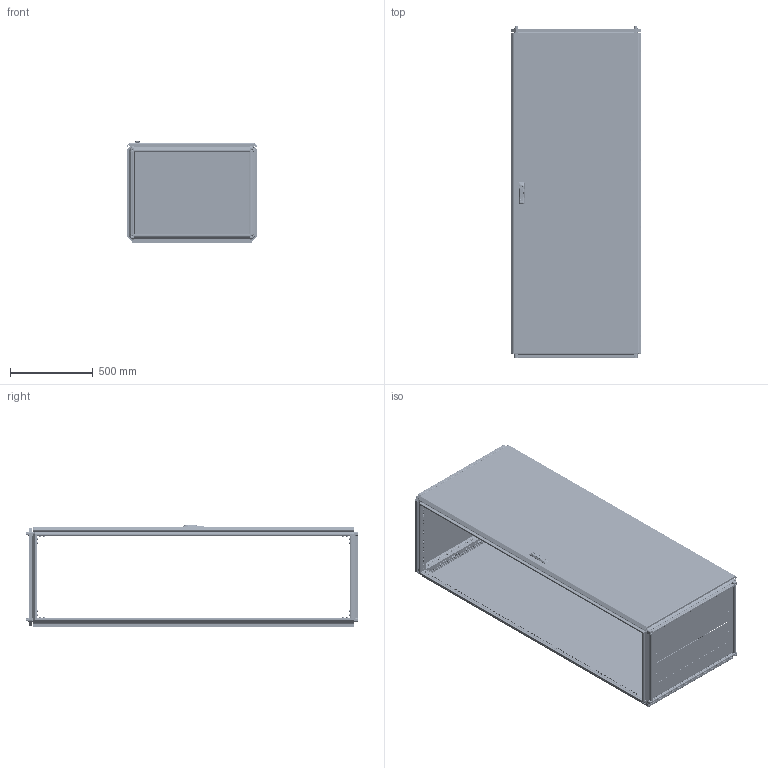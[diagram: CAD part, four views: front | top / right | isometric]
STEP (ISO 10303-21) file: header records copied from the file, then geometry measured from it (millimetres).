
FILE_DESCRIPTION (( 'STEP AP203' ), '1' );
FILE_NAME ('MA1.000.080620.10.00 AleSta2086 Øêàô AleSta 800õ600õ2000.STEP', '2024-08-23T08:28:41', ( '' ), ( '' ), 'SwSTEP 2.0', 'SolidWorks 2021', '' );
FILE_SCHEMA (( 'CONFIG_CONTROL_DESIGN' ));
Length unit declared in the file: millimetre
Products named in the file (50): MA1.101.060620.10.00 Êðûøà 600x600_800å600; MA1.200.060620.11.01 Ïîëîòíî çàäíåé ïàíåëè 2000õ600_2000å800; MA1.200.060620.31.02 Ðåéêà íà äâåðü âåðòèêàëüíàÿ Â = 2000_‚ =2000; Âèíò_ðåçüáîâûäàâëèâàþùèé_Ì5õ12_DIN 7500E_Œ5å12; ﾇﾀﾊﾋﾅﾏﾊﾀ ﾃﾀﾅﾗﾍﾀﾟ ﾘﾅﾑﾒﾈﾃﾐﾀﾍﾍﾀﾟ ﾑ ﾓﾌﾅﾍﾜﾘﾅﾍﾍﾛﾌ ﾁﾎﾐﾒﾎﾌ M4 X 11 (0.5-2.5 ﾌﾌ) HEX U-S ﾖﾈﾍﾊ; 7380-2 ISO Âèíòû ñ ïîëóêðóãëîé ãîëîâêîé ñ ôëàíöåì ñ âíóòðåííèì øåñòèãðàííèêîì Ì4õ10; Ïðîáêà ïëàñòèêîâàÿ óíèâåðñàëüíàÿ ïîä îòâåðñòèå 4,5 ìì, ñåðèÿ ST, öâåò áåñöâåòíûé – ST4,5; 諘蜱齁罻 022 瀁錒瀔隮; Âèíò ñàìîíàðåçàþùèé ñ ïîòàéíîé ãîëîâêîé Ì5x14 DIN 7500 M TORX, êëàññ ïðî÷íîñòè 8.8, îöèíêîâàííàÿ ñòàëü_Œ5å14; MA1.101.060620.00.00 AleSta-RB66 Êîìïëåêò êðûøà è îñíîâàíèå_800å600; Øïèëüêà Ì6õ12_˜¯¨«ìª  Œ6å12; MA1.200.060620.31.01 Ïîëîòíî äâåðè ñïëîøíîé 2000õ600_2000å800; ﾘ琺矜 65ﾃ 019 ﾃﾎﾑﾒ 6402-70_12; MA1.200.060620.10.00 AleSta-PR206  Ïàíåëü çàäíÿÿ, äëÿ øêàôîâ ALESTA, 2000 x 600_2000å800; MA1.101.060620.20.01 Ïîëîòíî íèæíåé ïàíåëè 600õ600_800å600; êðåïëåíèå_êðóãëîé_òÿãè_RG1020-1.stp; MA1.101.060620.00.02 Ïðîôèëü ïîïåðå÷íûé ñâàðíîé_01 L=498 (˜=600); Îñü ïåòëè 4õ52_‚¨­â A.M4x0,5x40 ƒŽ‘’ 11644-75; Âèíò_ðåçüáîâûäàâëèâàþùèé_Ì5õ12_DIN 7500E_00; Ïåòëÿ íà äâåðü ï-îáðàçíàÿ; Âèíò ðåçüáîâûäàâëèâàþùèé Ì6õ12 DIN 7500E_Œ6å10; Âèíò ñ âí. øåñòèãðàííèêîì M12 DIN912_•30; MA1.101.060620.20.02 Çàêðûòèå íèæíåé ïàíåëè 600õ600_800å600; MA1.102.060620.00.00 AleSta-VG2000 Ñòîéêè âåðòèêàëüíûå, Â=2000ìì  (4øò)_800å600; Ãàéêà ñàìîêîíòðÿùàÿñÿ ñ íåéëîíîâîé âñòàâêîé Ì6 DIN 985, êëàññ ïðî÷íîñòè 8, îöèíêîâàííàÿ ñòàëü_Œ5; MA1.102.060620.00.01 Ïðîôèëü âåðòèêàëüíûé ñâàðíîé_04 L=1898 (‚=2000); MS463-2-3(1); MA1.200.060620.31.00 Äâåðü ñïëîøíàÿ äëÿ øêàôîâ ALESTA ÂõØ 2000õ600_2000å800; òÿãà_lg001-2.STEP_‚=2000; Íàâåñêà íà êîðïóñ ïîä êëåïêó; Øïèëüêà Ì6õ12_˜¯¨«ìª  Œ6å16; MA1.200.060620.30.00 AleSta-D20M600 Äâåðü ñïëîøíàÿ äëÿ øêàôîâ ALESTA ÂõØ 2000õ600_2000å800; äåðæàòåëü_êðóãëîé_òÿãèRG002-RG1010-2-i-RG1010-3-.stp; MA1.200.060620.31.04 ðèãåëü çàìêà äâåðè; MA1.101.060620.20.00 Íèæíÿÿ ïàíåëü 600õ600_800å600; Óïëîòíèòåëü ïàíåëè íèæíåé_ ‚=2000; MA1.000.080620.10.00 AleSta2086 Øêàô AleSta 800õ600õ2000; MA1.101.060620.00.02 Ïðîôèëü ïîïåðå÷íûé ñâàðíîé_02 L=698 (˜=800) ; Øàéáà ñòîïîðíàÿ ñ íàðóæíûìè çóáöàìè SCHNORR, òèï VS öèíêîâûå õëîïüÿ Ì6 O6,4 ART 88121_Œ6; Áîëò øåñòèãðàííûé Ì5õ12 DIN 933, êëàññ ïðî÷íîñòè 8.8, îöèíêîâàííàÿ ñòàëü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
Assembly tree (337 placements, depth 4):
  Ïðîáêà ïëàñòèêîâàÿ óíèâåðñàëüíàÿ ïîä îòâåðñòèå 4,5 ìì, ñåðèÿ ST, öâåò áåñöâåòíûé – ST4,5
  MA1.000.080620.10.00 AleSta2086 Øêàô AleSta 800õ600õ2000
    MA1.101.060620.00.00 AleSta-RB66 Êîìïëåêò êðûøà è îñíîâàíèå_800å600
      MA1.101.060620.00.02 Ïðîôèëü ïîïåðå÷íûé ñâàðíîé_01 L=498 (˜=600)  x4
      MA1.101.060620.00.02 Ïðîôèëü ïîïåðå÷íûé ñâàðíîé_02 L=698 (˜=800)   x4
      MA1.101.060620.10.00 Êðûøà 600x600_800å600
        MA1.101.060620.10.01 Ïîëîòíî êðûøè 600õ600_800x600
        Øïèëüêà Ì6õ12_˜¯¨«ìª  Œ6å12  x4
        Óïëîòíèòåëü ïàíåëè íèæíåé_800å600
      MA1.101.060620.20.00 Íèæíÿÿ ïàíåëü 600õ600_800å600
        MA1.101.060620.20.01 Ïîëîòíî íèæíåé ïàíåëè 600õ600_800å600
        ﾇﾀﾊﾋﾅﾏﾊﾀ ﾃﾀﾅﾗﾍﾀﾟ ﾘﾅﾑﾒﾈﾃﾐﾀﾍﾍﾀﾟ ﾑ ﾓﾌﾅﾍﾜﾘﾅﾍﾍﾛﾌ ﾁﾎﾐﾒﾎﾌ M4 X 11 (0.5-2.5 ﾌﾌ) HEX U-S ﾖﾈﾍﾊ  x4
        MA1.101.060620.20.02 Çàêðûòèå íèæíåé ïàíåëè 600õ600_800å600  x2
        7380-2 ISO Âèíòû ñ ïîëóêðóãëîé ãîëîâêîé ñ ôëàíöåì ñ âíóòðåííèì øåñòèãðàííèêîì Ì4õ10  x4
      Âèíò_ðåçüáîâûäàâëèâàþùèé_Ì5õ12_DIN 7500E_Œ5å12  x8
      MA1.100.060620.00.01 Ñîåäèíèòåëü óãëîâîé_00  x8
      Âèíò ñ âí. øåñòèãðàííèêîì M12 DIN912_•30  x4
      Âèíò ðåçüáîâûäàâëèâàþùèé Ì6õ12 DIN 7500E_Œ6å10  x96
      ﾘ琺矜 01.019 ﾃﾎﾑﾒ11371-78_12  x4
      ﾘ琺矜 65ﾃ 019 ﾃﾎﾑﾒ 6402-70_12  x4
      Øàéáà ñòîïîðíàÿ ñ íàðóæíûìè çóáöàìè SCHNORR, òèï VS öèíêîâûå õëîïüÿ Ì6 O6,4 ART 88121_Œ6  x80
    MA1.102.060620.00.00 AleSta-VG2000 Ñòîéêè âåðòèêàëüíûå, Â=2000ìì  (4øò)_800å600
      MA1.102.060620.00.01 Ïðîôèëü âåðòèêàëüíûé ñâàðíîé_04 L=1898 (‚=2000)  x4
    MA1.200.060620.10.00 AleSta-PR206  Ïàíåëü çàäíÿÿ, äëÿ øêàôîâ ALESTA, 2000 x 600_2000å800
      MA1.200.060620.11.00 Ïàíåëü çàäíÿÿ, äëÿ øêàôîâ AleSta, 2000x600_2000å800
        MA1.200.060620.11.01 Ïîëîòíî çàäíåé ïàíåëè 2000õ600_2000å800
        Óïëîòíèòåëü ïàíåëè íèæíåé_ ‚=2000
        Øïèëüêà Ì6õ12_˜¯¨«ìª  Œ6å12  x4
      Âèíò ñàìîíàðåçàþùèé ñ ïîòàéíîé ãîëîâêîé Ì5x14 DIN 7500 M TORX, êëàññ ïðî÷íîñòè 8.8, îöèíêîâàííàÿ ñòàëü_Œ5å14  x8
    MA1.200.060620.30.00 AleSta-D20M600 Äâåðü ñïëîøíàÿ äëÿ øêàôîâ ALESTA ÂõØ 2000õ600_2000å800
      MA1.200.060620.31.00 Äâåðü ñïëîøíàÿ äëÿ øêàôîâ ALESTA ÂõØ 2000õ600_2000å800
        MA1.200.060620.31.01 Ïîëîòíî äâåðè ñïëîøíîé 2000õ600_2000å800
        Óïëîòíèòåëü ïàíåëè íèæíåé_ ‚=2000
        Øïèëüêà Ì6õ12_˜¯¨«ìª  Œ6å20  x16
        Øïèëüêà Ì6õ12_˜¯¨«ìª  Œ6å16  x4
        Ïåòëÿ íà äâåðü ï-îáðàçíàÿ  x4
      MA1.200.060620.31.03 Ðåéêà íà äâåðü ãîðèçîíòàëüíàÿ Ø = 600_˜=800  x2
      諘蜱齁罻 022 瀁錒瀔隮  x4
      MA1.200.060620.31.02 Ðåéêà íà äâåðü âåðòèêàëüíàÿ Â = 2000_‚ =2000  x2
      äåðæàòåëü_êðóãëîé_òÿãèRG002-RG1010-2-i-RG1010-3-.stp  x2
      òÿãà_lg001-2.STEP_‚=2000  x2
      êðåïëåíèå_êðóãëîé_òÿãè_RG1020-1.stp  x2
      MS463-2-3(1)
      Ãàéêà ñàìîêîíòðÿùàÿñÿ ñ íåéëîíîâîé âñòàâêîé Ì6 DIN 985, êëàññ ïðî÷íîñòè 8, îöèíêîâàííàÿ ñòàëü_Œ6  x16
      Ãàéêà ñàìîêîíòðÿùàÿñÿ ñ íåéëîíîâîé âñòàâêîé Ì6 DIN 985, êëàññ ïðî÷íîñòè 8, îöèíêîâàííàÿ ñòàëü_Œ5  x2
      Áîëò øåñòèãðàííûé Ì5õ12 DIN 933, êëàññ ïðî÷íîñòè 8.8, îöèíêîâàííàÿ ñòàëü  x2
      MA1.200.060620.31.04 ðèãåëü çàìêà äâåðè
      MA1.200.060620.31.05 Óãëîâîé óïîð äâåðíîé òÿãè  x2
      Âèíò_ðåçüáîâûäàâëèâàþùèé_Ì5õ12_DIN 7500E_00  x2
      Íàâåñêà íà êîðïóñ ïîä êëåïêó  x4
      Îñü ïåòëè 4õ52_‚¨­â A.M4x0,5x40 ƒŽ‘’ 11644-75  x4
      Âèíò ñàìîíàðåçàþùèé ñ ïîòàéíîé ãîëîâêîé Ì5x14 DIN 7500 M TORX, êëàññ ïðî÷íîñòè 8.8, îöèíêîâàííàÿ ñòàëü_Œ5å12  x8
Bounding box: 792 x 2010.9 x 616.8 mm (x, y, z)
Volume: 10665938.1 mm3; surface area: 13964443.1 mm2
Topology: 364 solids, 378 shells, 24235 faces, 62742 edges, 39336 vertices
Faces by surface type: plane 14505, cylinder 7037, bspline 921, cone 845, torus 829, sphere 98
Entity records: 253848 total; most frequent: CARTESIAN_POINT 80713, ORIENTED_EDGE 33170, DIRECTION 32624, EDGE_CURVE 16602, AXIS2_PLACEMENT_3D 11168, VERTEX_POINT 10365, LINE 10288, VECTOR 10288
